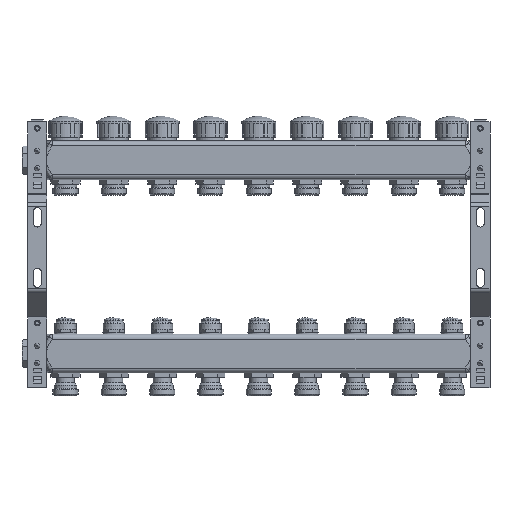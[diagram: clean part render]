
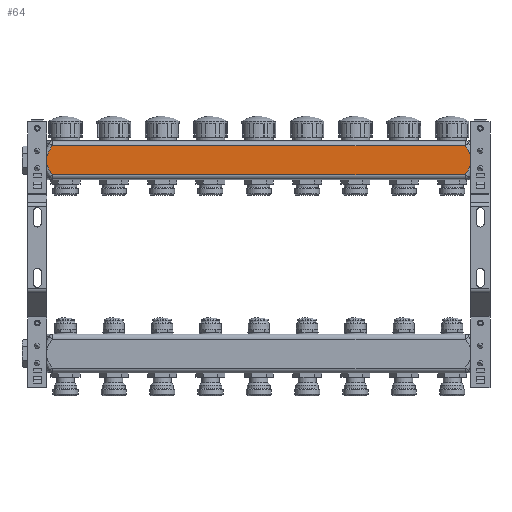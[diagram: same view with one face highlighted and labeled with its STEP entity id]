
A CAD part, front view. The second image highlights one B-rep face of the part: STEP entity #64.
In plain terms, the highlighted planar face has unit normal (0, -1, 0).
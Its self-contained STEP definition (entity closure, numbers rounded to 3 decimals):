
#64=ADVANCED_FACE('',(#1675),#1677,.T.);
#1675=FACE_BOUND('',#1676,.T.);
#1676=EDGE_LOOP('',(#13885,#13886,#13887,#13888,#13889,#13890,#13891,#13892));
#1677=PLANE('',#1678);
#1678=AXIS2_PLACEMENT_3D('',#1679,#1680,#1681);
#1679=CARTESIAN_POINT('',(1.7,19.6,-19.65));
#1680=DIRECTION('',(0.,-1.,0.));
#1681=DIRECTION('',(0.,0.,-1.));
#13885=ORIENTED_EDGE('',*,*,#20394,.F.);
#13886=ORIENTED_EDGE('',*,*,#20393,.T.);
#13887=ORIENTED_EDGE('',*,*,#20395,.T.);
#13888=ORIENTED_EDGE('',*,*,#20396,.T.);
#13889=ORIENTED_EDGE('',*,*,#20397,.T.);
#13890=ORIENTED_EDGE('',*,*,#20398,.T.);
#13891=ORIENTED_EDGE('',*,*,#20399,.F.);
#13892=ORIENTED_EDGE('',*,*,#20388,.T.);
#20388=EDGE_CURVE('',#23762,#23759,#23763,.T.);
#20393=EDGE_CURVE('',#23760,#23768,#23770,.T.);
#20394=EDGE_CURVE('',#23760,#23759,#23771,.T.);
#20395=EDGE_CURVE('',#23768,#23772,#23773,.T.);
#20396=EDGE_CURVE('',#23772,#23774,#23775,.T.);
#20397=EDGE_CURVE('',#23774,#23776,#23777,.F.);
#20398=EDGE_CURVE('',#23776,#23778,#23779,.T.);
#20399=EDGE_CURVE('',#23762,#23778,#23780,.T.);
#23759=VERTEX_POINT('',#31447);
#23760=VERTEX_POINT('',#31448);
#23762=VERTEX_POINT('',#31463);
#23763=B_SPLINE_CURVE_WITH_KNOTS('',3,
(#31464,#31465,#31466,#31467,#31468,#31469,#31470,#31471,#31472,#31473,#31474,#31475),
.UNSPECIFIED.,.F.,.F.,
(4,1,1,1,1,1,1,1,1,4),
(0.,0.148,0.281,0.388,0.488,0.582,
0.677,0.788,0.894,1.),
.UNSPECIFIED.);
#23768=VERTEX_POINT('',#31532);
#23770=B_SPLINE_CURVE_WITH_KNOTS('',3,
(#31537,#31538,#31539,#31540,#31541,#31542,#31543,#31544,#31545,#31546,#31547,#31548),
.UNSPECIFIED.,.F.,.F.,
(4,1,1,1,1,1,1,1,1,4),
(0.,0.148,0.285,0.404,0.507,0.612,
0.722,0.854,0.945,1.),
.UNSPECIFIED.);
#23771=LINE('',#31549,#31550);
#23772=VERTEX_POINT('',#31552);
#23773=LINE('',#31553,#31554);
#23774=VERTEX_POINT('',#31556);
#23775=B_SPLINE_CURVE_WITH_KNOTS('',3,
(#31557,#31558,#31559,#31560,#31561,#31562,#31563,#31564,#31565,#31566,#31567,#31568),
.UNSPECIFIED.,.F.,.F.,
(4,1,1,1,1,1,1,1,1,4),
(0.,0.148,0.281,0.388,0.488,0.582,
0.677,0.788,0.894,1.),
.UNSPECIFIED.);
#23776=VERTEX_POINT('',#31569);
#23777=LINE('',#31570,#31571);
#23778=VERTEX_POINT('',#31573);
#23779=B_SPLINE_CURVE_WITH_KNOTS('',3,
(#31574,#31575,#31576,#31577,#31578,#31579,#31580,#31581,#31582,#31583,#31584,#31585),
.UNSPECIFIED.,.F.,.F.,
(4,1,1,1,1,1,1,1,1,4),
(0.,0.148,0.285,0.404,0.507,0.612,
0.722,0.854,0.945,1.),
.UNSPECIFIED.);
#23780=LINE('',#31586,#31587);
#31447=CARTESIAN_POINT('',(20.,19.6,-35.442));
#31448=CARTESIAN_POINT('',(20.,19.6,-43.858));
#31463=CARTESIAN_POINT('',(25.634,19.6,-24.65));
#31464=CARTESIAN_POINT('',(25.634,19.6,-24.65));
#31465=CARTESIAN_POINT('',(25.276,19.6,-25.157));
#31466=CARTESIAN_POINT('',(24.609,19.6,-26.124));
#31467=CARTESIAN_POINT('',(23.733,19.6,-27.474));
#31468=CARTESIAN_POINT('',(23.003,19.6,-28.67));
#31469=CARTESIAN_POINT('',(22.391,19.6,-29.742));
#31470=CARTESIAN_POINT('',(21.837,19.6,-30.785));
#31471=CARTESIAN_POINT('',(21.305,19.6,-31.879));
#31472=CARTESIAN_POINT('',(20.804,19.6,-33.032));
#31473=CARTESIAN_POINT('',(20.354,19.6,-34.238));
#31474=CARTESIAN_POINT('',(20.109,19.6,-35.041));
#31475=CARTESIAN_POINT('',(20.,19.6,-35.442));
#31532=CARTESIAN_POINT('',(25.634,19.6,-54.65));
#31537=CARTESIAN_POINT('',(20.,19.6,-43.858));
#31538=CARTESIAN_POINT('',(20.152,19.6,-44.421));
#31539=CARTESIAN_POINT('',(20.497,19.6,-45.494));
#31540=CARTESIAN_POINT('',(21.107,19.6,-46.995));
#31541=CARTESIAN_POINT('',(21.728,19.6,-48.305));
#31542=CARTESIAN_POINT('',(22.35,19.6,-49.486));
#31543=CARTESIAN_POINT('',(22.997,19.6,-50.62));
#31544=CARTESIAN_POINT('',(23.744,19.6,-51.844));
#31545=CARTESIAN_POINT('',(24.497,19.6,-53.003));
#31546=CARTESIAN_POINT('',(25.15,19.6,-53.961));
#31547=CARTESIAN_POINT('',(25.501,19.6,-54.462));
#31548=CARTESIAN_POINT('',(25.634,19.6,-54.65));
#31549=CARTESIAN_POINT('',(20.,19.6,-43.858));
#31550=VECTOR('',#31551,1.);
#31551=DIRECTION('',(0.,0.,1.));
#31552=CARTESIAN_POINT('',(452.766,19.6,-54.65));
#31553=CARTESIAN_POINT('',(25.634,19.6,-54.65));
#31554=VECTOR('',#31555,1.);
#31555=DIRECTION('',(1.,0.,0.));
#31556=CARTESIAN_POINT('',(458.4,19.6,-43.858));
#31557=CARTESIAN_POINT('',(452.766,19.6,-54.65));
#31558=CARTESIAN_POINT('',(453.124,19.6,-54.143));
#31559=CARTESIAN_POINT('',(453.791,19.6,-53.176));
#31560=CARTESIAN_POINT('',(454.667,19.6,-51.826));
#31561=CARTESIAN_POINT('',(455.397,19.6,-50.63));
#31562=CARTESIAN_POINT('',(456.009,19.6,-49.558));
#31563=CARTESIAN_POINT('',(456.563,19.6,-48.515));
#31564=CARTESIAN_POINT('',(457.095,19.6,-47.421));
#31565=CARTESIAN_POINT('',(457.596,19.6,-46.268));
#31566=CARTESIAN_POINT('',(458.046,19.6,-45.062));
#31567=CARTESIAN_POINT('',(458.291,19.6,-44.259));
#31568=CARTESIAN_POINT('',(458.4,19.6,-43.858));
#31569=CARTESIAN_POINT('',(458.4,19.6,-35.442));
#31570=CARTESIAN_POINT('',(458.4,19.6,-35.442));
#31571=VECTOR('',#31572,1.);
#31572=DIRECTION('',(0.,0.,-1.));
#31573=CARTESIAN_POINT('',(452.766,19.6,-24.65));
#31574=CARTESIAN_POINT('',(458.4,19.6,-35.442));
#31575=CARTESIAN_POINT('',(458.248,19.6,-34.879));
#31576=CARTESIAN_POINT('',(457.903,19.6,-33.806));
#31577=CARTESIAN_POINT('',(457.293,19.6,-32.305));
#31578=CARTESIAN_POINT('',(456.672,19.6,-30.995));
#31579=CARTESIAN_POINT('',(456.05,19.6,-29.814));
#31580=CARTESIAN_POINT('',(455.403,19.6,-28.68));
#31581=CARTESIAN_POINT('',(454.656,19.6,-27.456));
#31582=CARTESIAN_POINT('',(453.903,19.6,-26.297));
#31583=CARTESIAN_POINT('',(453.25,19.6,-25.339));
#31584=CARTESIAN_POINT('',(452.899,19.6,-24.838));
#31585=CARTESIAN_POINT('',(452.766,19.6,-24.65));
#31586=CARTESIAN_POINT('',(25.634,19.6,-24.65));
#31587=VECTOR('',#31588,1.);
#31588=DIRECTION('',(1.,0.,0.));
